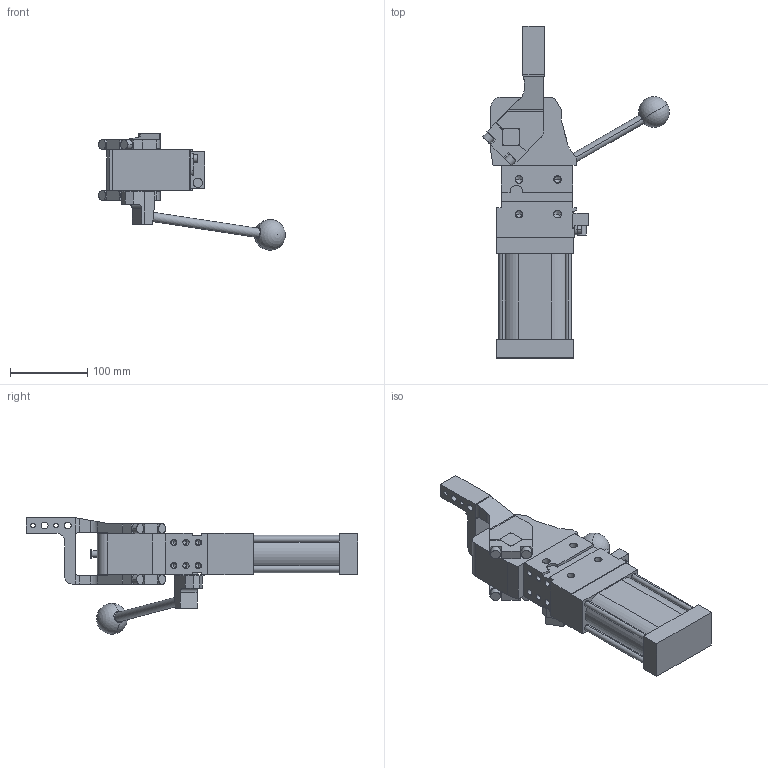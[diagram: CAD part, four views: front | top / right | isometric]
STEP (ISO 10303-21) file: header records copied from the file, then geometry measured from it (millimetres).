
FILE_DESCRIPTION (( 'STEP AP214' ), '1' );
FILE_NAME ('cplm63lbh1ssi1g_75.STEP', '2023-01-26T14:34:09', ( '' ), ( '' ), 'SwSTEP 2.0', 'SolidWorks 2022', '' );
FILE_SCHEMA (( 'AUTOMOTIVE_DESIGN' ));
Length unit declared in the file: millimetre
Products named in the file (5): comando_manuale_cplm_63; meccanica_cplm_63; leva_sx_offset_15_cpl63; blocchetto_VEP_0; cplm63lbh1ssi1g_75
Assembly tree (4 placements, depth 2):
  cplm63lbh1ssi1g_75
    meccanica_cplm_63
    blocchetto_VEP_0
    leva_sx_offset_15_cpl63
    comando_manuale_cplm_63
Bounding box: 242.06 x 430.5 x 151 mm (x, y, z)
Volume: 1866260.9 mm3; surface area: 206781.4 mm2
Topology: 4 solids, 4 shells, 430 faces, 1128 edges, 699 vertices
Faces by surface type: plane 217, cylinder 161, cone 50, sphere 2
Entity records: 14523 total; most frequent: CARTESIAN_POINT 2312, DIRECTION 2297, ORIENTED_EDGE 2154, EDGE_CURVE 1077, AXIS2_PLACEMENT_3D 795, VECTOR 707, LINE 707, VERTEX_POINT 696
